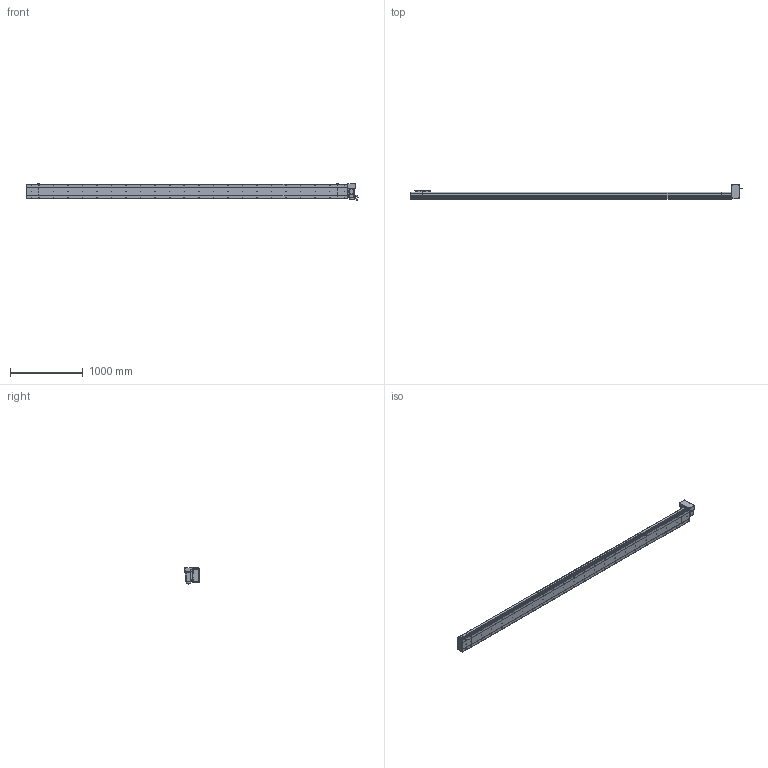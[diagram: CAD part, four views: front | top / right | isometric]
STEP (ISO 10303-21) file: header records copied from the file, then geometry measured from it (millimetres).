
FILE_DESCRIPTION (( 'STEP AP214' ), '1' );
FILE_NAME ('D20 CBH LT S4100.STEP', '2010-06-30T11:24:45', ( 'Conseil Régional Haute-Normandie' ), ( 'Conseil Régional Haute-Normandie' ), 'SwSTEP 2.0', 'SolidWorks 2010', '' );
FILE_SCHEMA (( 'AUTOMOTIVE_DESIGN' ));
Length unit declared in the file: millimetre
Products named in the file (31): Corp D20 S4100_Default; Couvercle S4100_Default; Support Chariot D20_Default; Corp S4100_Default; Glissiere_Default; avant 90BLDC125A-640; Moteur motionking 90BLDC125A-640; vis M5 L47_Default; vis M5 L30_Default; ecrou_Default; Cache Support Moteur LT_Default; Support moteur LT_Default; Conecteur2_Default; codeur 90BLDC125-640; corps 90BLDC125A-640; Conecteur_Default; Chariot D20_Default; vis M5 L15_Default; Tail D20+100_Default; Corp Tail D20+100_Default; Plaque De Serrage D20_Default; Plaque de Bout Tail D20_Default; Couvercle_Default; Plaque De Serrage D20 LT_Default; Corp Tail D20 LT_Default; Rondelle Cache D20 LT_Default; Plaque de Bout Head D20 LT_Default; Couvercle LT_Default; Head LT_Default; D20 CBH LT S4100
Assembly tree (66 placements, depth 4):
  D20 CBH LT S4100
    Corp D20 S4100_Default
      Couvercle S4100_Default
      Corp S4100_Default
    Tail D20+100_Default
      vis M5 L15_Default  x6
      Couvercle_Default
      Plaque de Bout Tail D20_Default
      Corp Tail D20+100_Default
      Plaque De Serrage D20_Default
    Chariot D20_Default
      vis M5 L15_Default  x8
      Support Chariot D20_Default
      Glissiere_Default
      Chariot D20_Default
    Head LT_Default
      vis M5 L15_Default  x12
      vis M5 L47_Default  x4
      vis M5 L30_Default  x4
      Couvercle LT_Default
      Rondelle Cache D20 LT_Default  x3
      ecrou_Default  x4
      Plaque De Serrage D20 LT_Default
      Plaque de Bout Head D20 LT_Default
      Cache Support Moteur LT_Default
      Support moteur LT_Default
      Moteur motionking 90BLDC125A-640
        Conecteur2_Default
        Conecteur_Default
        avant 90BLDC125A-640
        codeur 90BLDC125-640
        corps 90BLDC125A-640
      Corp Tail D20 LT_Default
Bounding box: 4563.45 x 202.5 x 229.7 mm (x, y, z)
Volume: 30113419.5 mm3; surface area: 5747374.3 mm2
Topology: 103 solids, 103 shells, 3885 faces, 9692 edges, 6304 vertices
Faces by surface type: plane 2134, bspline 806, cylinder 782, torus 91, cone 68, sphere 4
Entity records: 163678 total; most frequent: CARTESIAN_POINT 83725, ORIENTED_EDGE 15852, DIRECTION 12216, EDGE_CURVE 7926, VERTEX_POINT 5248, VECTOR 5030, LINE 5030, AXIS2_PLACEMENT_3D 3593
